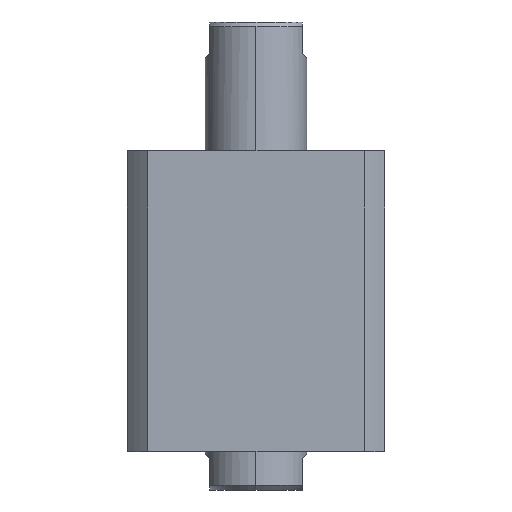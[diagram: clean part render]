
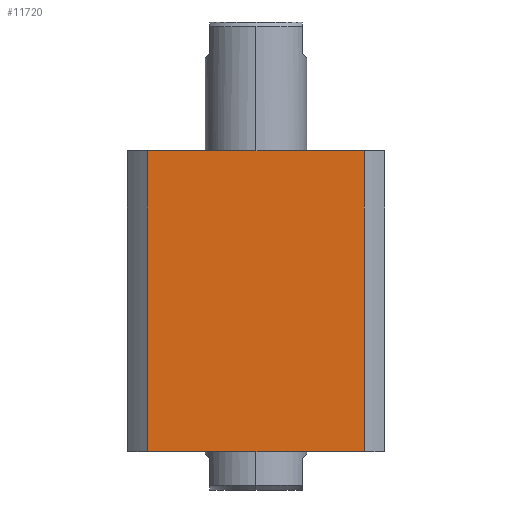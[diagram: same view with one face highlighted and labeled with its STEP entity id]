
A CAD part, front view. The second image highlights one B-rep face of the part: STEP entity #11720.
In plain terms, the highlighted planar face has unit normal (0, -1, 0) as drawn and (-1, 0, 0) by its records, which use the part's own axes.
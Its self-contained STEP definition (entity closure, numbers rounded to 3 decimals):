
#162 = VECTOR ( 'NONE', #2127, 1000. ) ;
#936 = VECTOR ( 'NONE', #10566, 1000. ) ;
#1608 = LINE ( 'NONE', #4666, #8072 ) ;
#2127 = DIRECTION ( 'NONE',  ( 0., 0., -1. ) ) ;
#2355 = ORIENTED_EDGE ( 'NONE', *, *, #12220, .T. ) ;
#2358 = EDGE_CURVE ( 'NONE', #11037, #13822, #7740, .T. ) ;
#2673 = EDGE_CURVE ( 'NONE', #13822, #15428, #6994, .T. ) ;
#3147 = CARTESIAN_POINT ( 'NONE',  ( -57., 47.971, 133. ) ) ;
#4352 = CARTESIAN_POINT ( 'NONE',  ( -57., 57., 0. ) ) ;
#4537 = VECTOR ( 'NONE', #6948, 1000. ) ;
#4666 = CARTESIAN_POINT ( 'NONE',  ( -57., 47.971, -167. ) ) ;
#5817 = DIRECTION ( 'NONE',  ( 0., 1., 0. ) ) ;
#6379 = CARTESIAN_POINT ( 'NONE',  ( -57., -47.971, 133. ) ) ;
#6476 = ORIENTED_EDGE ( 'NONE', *, *, #2673, .F. ) ;
#6509 = ORIENTED_EDGE ( 'NONE', *, *, #2358, .F. ) ;
#6686 = VERTEX_POINT ( 'NONE', #7202 ) ;
#6806 = FACE_OUTER_BOUND ( 'NONE', #10056, .T. ) ;
#6948 = DIRECTION ( 'NONE',  ( 0., -1., 0. ) ) ;
#6994 = LINE ( 'NONE', #9393, #162 ) ;
#7202 = CARTESIAN_POINT ( 'NONE',  ( -57., 47.971, 0. ) ) ;
#7740 = LINE ( 'NONE', #11777, #4537 ) ;
#8072 = VECTOR ( 'NONE', #13027, 1000. ) ;
#8210 = PLANE ( 'NONE',  #14196 ) ;
#9393 = CARTESIAN_POINT ( 'NONE',  ( -57., -47.971, -167. ) ) ;
#10056 = EDGE_LOOP ( 'NONE', ( #15264, #2355, #6476, #6509 ) ) ;
#10566 = DIRECTION ( 'NONE',  ( 0., -1., 0. ) ) ;
#10590 = LINE ( 'NONE', #4352, #936 ) ;
#11037 = VERTEX_POINT ( 'NONE', #3147 ) ;
#11720 = ADVANCED_FACE ( 'NONE', ( #6806 ), #8210, .F. ) ;
#11777 = CARTESIAN_POINT ( 'NONE',  ( -57., 57., 133. ) ) ;
#11981 = CARTESIAN_POINT ( 'NONE',  ( -57., -47.971, 0. ) ) ;
#12220 = EDGE_CURVE ( 'NONE', #6686, #15428, #10590, .T. ) ;
#13027 = DIRECTION ( 'NONE',  ( 0., 0., 1. ) ) ;
#13073 = DIRECTION ( 'NONE',  ( 1., 0., 0. ) ) ;
#13822 = VERTEX_POINT ( 'NONE', #6379 ) ;
#14196 = AXIS2_PLACEMENT_3D ( 'NONE', #15489, #13073, #5817 ) ;
#15264 = ORIENTED_EDGE ( 'NONE', *, *, #15346, .F. ) ;
#15346 = EDGE_CURVE ( 'NONE', #6686, #11037, #1608, .T. ) ;
#15428 = VERTEX_POINT ( 'NONE', #11981 ) ;
#15489 = CARTESIAN_POINT ( 'NONE',  ( -57., 57., 133. ) ) ;
